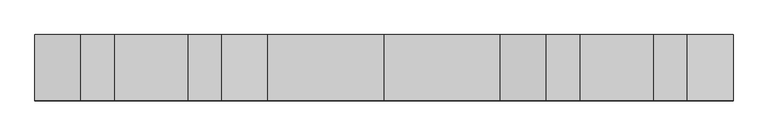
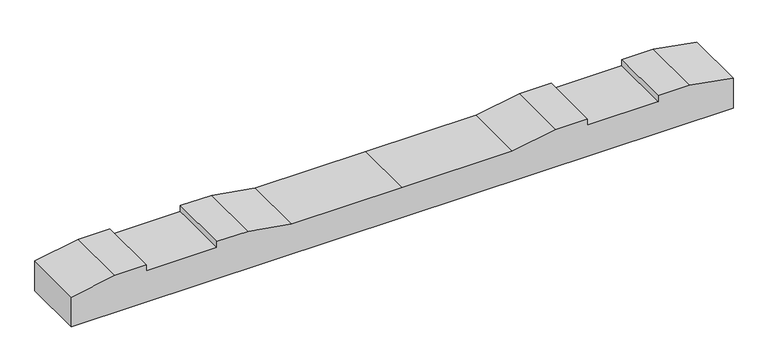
"""IFC4 building model written with IfcOpenShell, lengths in millimetres: proxy geometry, 轨枕-立面角度 : 轨枕-立面角度."""

from ifc_helpers import new_model, si_unit, frame, origin, place, context, project, spatial, polyline, outline, extrude, source, transform, mapped, element, save


def generic_models_9c5fc2fe(model_context):
    return source(origin(), model_context, "Body", "SweptSolid", [
        extrude(outline(polyline([(0.0, 0.0), (0.0, -100.0206889), (-137.8834664, -124.5), (-237.8834664, -124.5), (-237.8834664, -104.5), (-461.8834664, -104.5), (-461.8834664, -124.5), (-561.8834664, -124.5), (-699.8834664, -100.0), (-1049.8834664, -100.0), (-1399.8834664, -100.0), (-1537.8834664, -124.5), (-1637.8834664, -124.5), (-1637.8834664, -104.5), (-1861.8834664, -104.5), (-1861.8834664, -124.5), (-1961.8834664, -124.5), (-2099.7669328, -100.0206889), (-2099.7669328, 0.0), (0.0, 0.0)])), frame((-1049.8834664, 99.8219782, -104.6700658), z_axis=(0.0, -0.9999985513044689, 0.0017021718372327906), x_axis=(-1.0, 0.0, 0.0)), (0.0, 0.0, 1.0), 200.0),
    ])


if __name__ == "__main__":
    model = new_model("IFC4")
    model_context = context("Model", 3, world=origin())
    ifc_project = project(units=[si_unit("LENGTHUNIT", "METRE", prefix="MILLI")], contexts=[model_context])
    site = spatial("IfcSite", under=ifc_project)
    building = spatial("IfcBuilding", under=site)
    placement = place(None, origin())
    generic_models_shape = generic_models_9c5fc2fe(model_context)
    element("IfcBuildingElementProxy", 1, Name="轨枕-立面角度 : 轨枕-立面角度", ObjectType="轨枕-立面角度 : 轨枕-立面角度", at=placement, inside=building, context=model_context, shape_type="MappedRepresentation", body=[
        mapped(generic_models_shape, transform((0.0, 0.0, 0.0), x_axis=(1.0, 0.0, 0.0), y_axis=(0.0, 1.0, 0.0), z_axis=(0.0, 0.0, 1.0))),
    ])
    save(model, "model.ifc")
